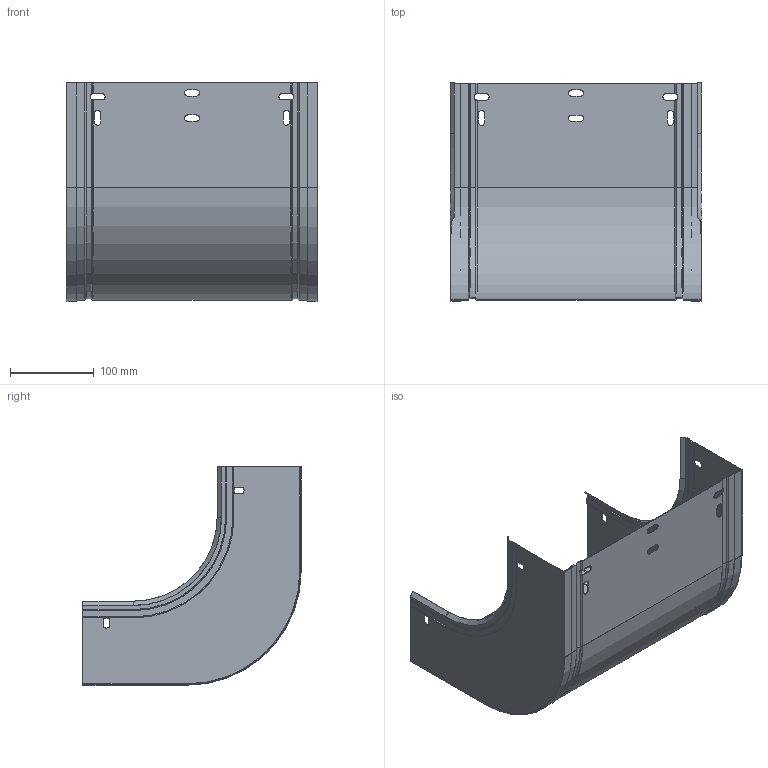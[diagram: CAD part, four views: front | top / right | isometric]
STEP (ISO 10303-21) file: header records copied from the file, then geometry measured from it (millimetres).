
FILE_DESCRIPTION (( 'STEP AP203' ), '1' );
FILE_NAME ('ERE_CONCAVA 300x100.step', '2023-07-27T18:54:26', ( '' ), ( '' ), 'SwSTEP 2.0', 'SolidWorks 2022', '' );
FILE_SCHEMA (( 'CONFIG_CONTROL_DESIGN' ));
Length unit declared in the file: millimetre
Products named in the file (3): ERE_CONCAVA 300x100; ERE_LATERAL CC_100; ERE_BASE CC_300x100
Assembly tree (3 placements, depth 2):
  ERE_CONCAVA 300x100
    ERE_BASE CC_300x100
    ERE_LATERAL CC_100  x2
Bounding box: 300 x 260 x 260 mm (x, y, z)
Volume: 183563.9 mm3; surface area: 462223.1 mm2
Topology: 3 solids, 3 shells, 234 faces, 642 edges, 402 vertices
Faces by surface type: plane 146, cylinder 62, cone 22, torus 4
Entity records: 6006 total; most frequent: CARTESIAN_POINT 1036, ORIENTED_EDGE 988, DIRECTION 969, EDGE_CURVE 494, VECTOR 353, LINE 353, VERTEX_POINT 311, AXIS2_PLACEMENT_3D 308
